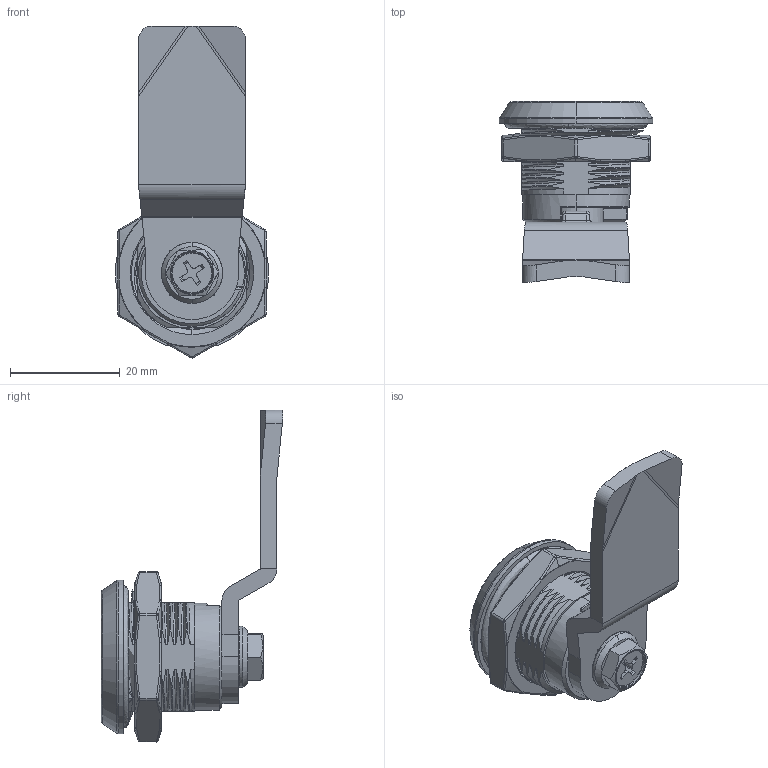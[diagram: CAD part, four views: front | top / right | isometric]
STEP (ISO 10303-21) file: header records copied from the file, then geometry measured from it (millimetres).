
FILE_DESCRIPTION (( 'STEP AP214' ), '1' );
FILE_NAME ('CUYUE.D1-1401-168.STEP', '2026-06-16T06:36:23', ( '' ), ( '' ), 'SwSTEP 2.0', 'SolidWorks 2020', '' );
FILE_SCHEMA (( 'AUTOMOTIVE_DESIGN' ));
Length unit declared in the file: millimetre
Products named in the file (1): CUYUE.D1-1401-168
Bounding box: 28 x 33.09 x 60.51 mm (x, y, z)
Surface area: 11950.1 mm2 (no closed solid volume)
Topology: 0 solids, 12 shells, 540 faces, 1406 edges, 885 vertices
Faces by surface type: bspline 241, cylinder 138, plane 106, cone 53, torus 2
Entity records: 71681 total; most frequent: CARTESIAN_POINT 60548, ORIENTED_EDGE 2779, DIRECTION 1651, EDGE_CURVE 1398, VERTEX_POINT 881, AXIS2_PLACEMENT_3D 586, EDGE_LOOP 560, ADVANCED_FACE 539
